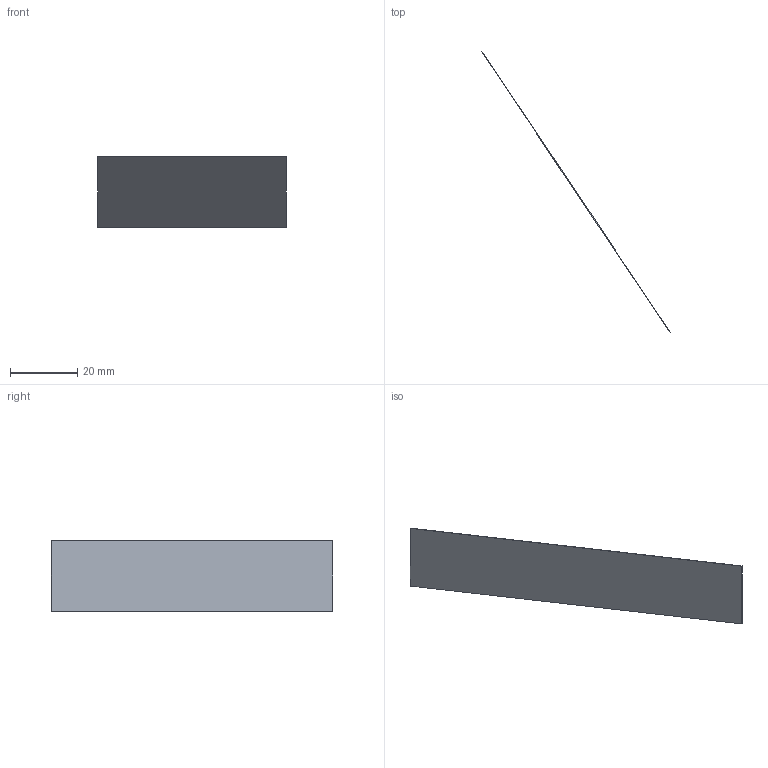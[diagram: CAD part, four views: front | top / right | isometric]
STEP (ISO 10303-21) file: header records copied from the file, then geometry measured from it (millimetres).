
FILE_DESCRIPTION(('Open CASCADE Model'),'2;1');
FILE_NAME('Open CASCADE Shape Model','2026-10-04T02:31:45',('Author'),( 'Open CASCADE'),'Open CASCADE STEP processor 8.0','Open CASCADE 8.0' ,'Unknown');
FILE_SCHEMA(('AUTOMOTIVE_DESIGN { 1 0 10303 214 1 1 1 1 }'));
Length unit declared in the file: millimetre
Products named in the file (1): Open CASCADE STEP translator 8.0 402
Bounding box: 56.16 x 83.63 x 21 mm (x, y, z)
Volume: 316.9 mm3; surface area: 4261.6 mm2
Topology: 1 solids, 1 shells, 6 faces, 12 edges, 8 vertices
Faces by surface type: plane 6
Entity records: 322 total; most frequent: CARTESIAN_POINT 51, DIRECTION 50, LINE 36, VECTOR 36, ORIENTED_EDGE 24, PCURVE 24, DEFINITIONAL_REPRESENTATION 24, EDGE_CURVE 12
